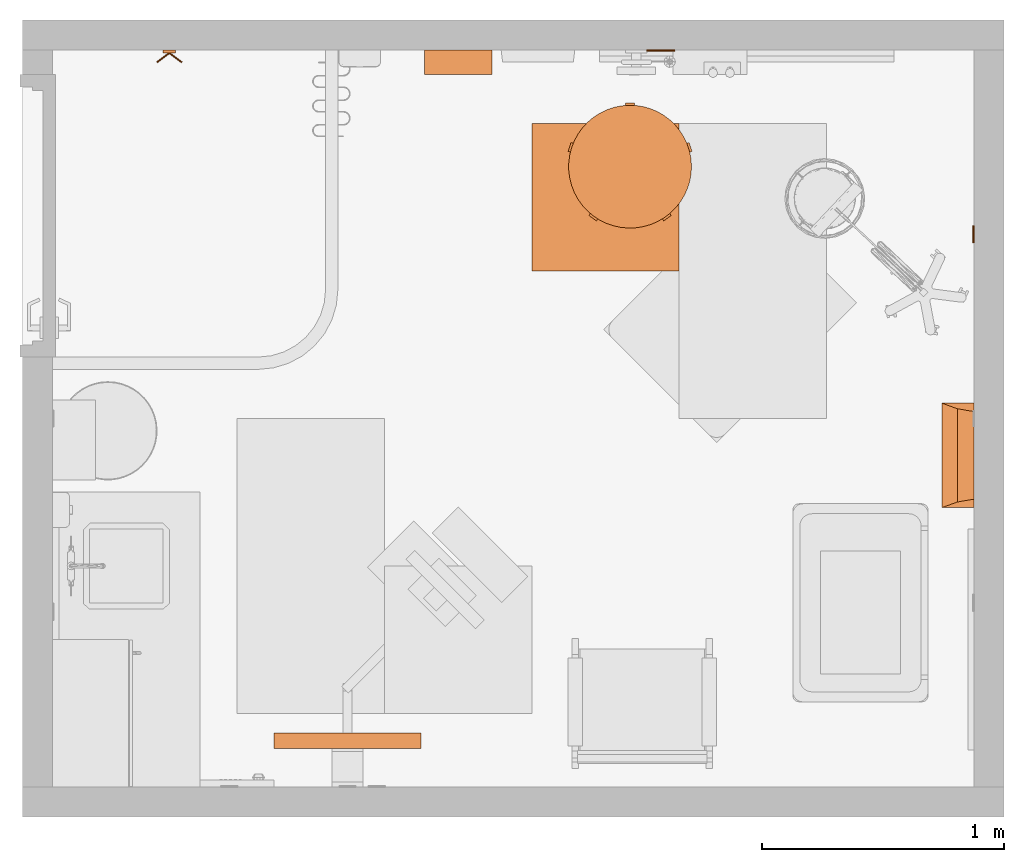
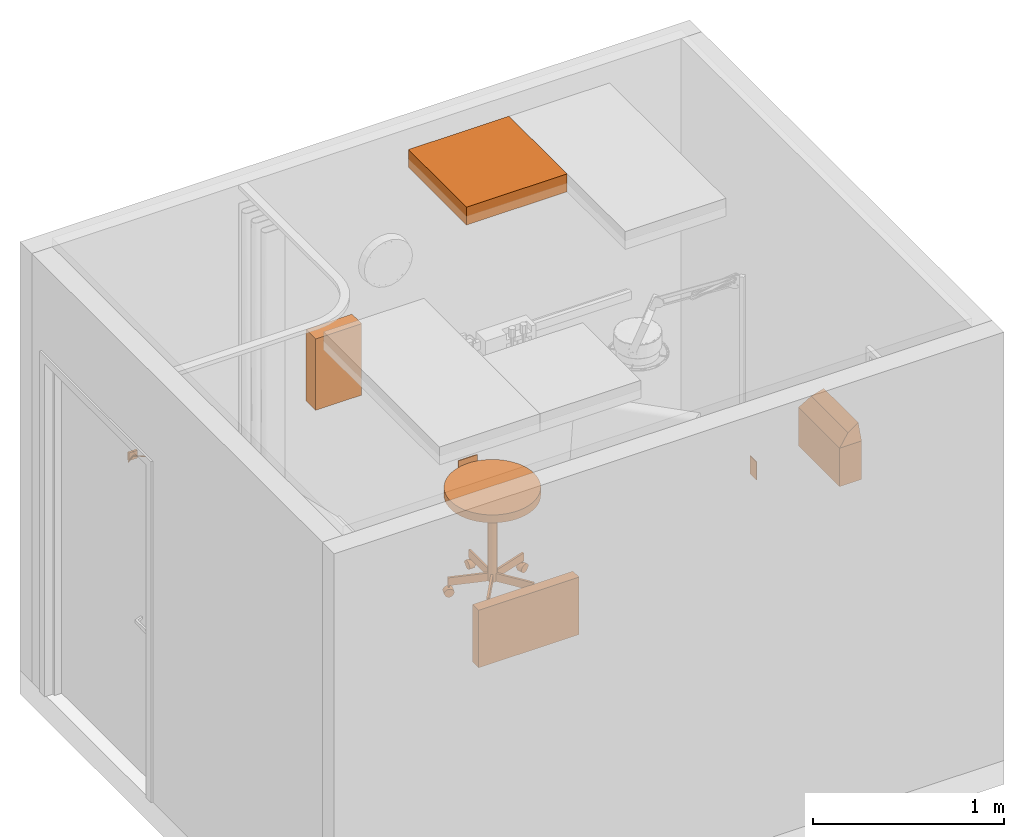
# One storey, part 6 of 10: 8 proxies.
"""IFC2X3 building model written with IfcOpenShell, lengths in feet."""

from ifc_helpers import new_model, entity, si_unit, converted_unit, derived_unit, direction, frame, frame_2d, origin, origin_2d_with_axis, place, context, subcontext, project, spatial, polyline, circle_curve, parameter, trimmed, segment, composite_curve, rectangle, circle, outline, extrude, faceted_brep, source, transform, mapped, type_object, type_shapes, element, save


model = new_model("IFC2X3")

# Units and contexts
model_context = context("Model", 3, precision=0.0001, world=origin(), true_north=direction((6.12303176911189e-17, 1.0)))
body_context = subcontext(model_context, "Body", "Model", "MODEL_VIEW")
ifc_project = project(units=[converted_unit("LENGTHUNIT", "FOOT", entity("IfcRatioMeasure", 0.3048), si_unit("LENGTHUNIT", "METRE"), dimensions=[1, 0, 0, 0, 0, 0, 0]), converted_unit("AREAUNIT", "SQUARE FOOT", entity("IfcRatioMeasure", 0.09290304), si_unit("AREAUNIT", "SQUARE_METRE"), dimensions=[2, 0, 0, 0, 0, 0, 0]), converted_unit("VOLUMEUNIT", "CUBIC FOOT", entity("IfcRatioMeasure", 0.028316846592), si_unit("VOLUMEUNIT", "CUBIC_METRE"), dimensions=[3, 0, 0, 0, 0, 0, 0]), converted_unit("PLANEANGLEUNIT", "DEGREE", entity("IfcRatioMeasure", 0.0174532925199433), si_unit("PLANEANGLEUNIT", "RADIAN"), dimensions=[0, 0, 0, 0, 0, 0, 0]), si_unit("MASSUNIT", "GRAM", prefix="KILO"), derived_unit("MASSDENSITYUNIT", [(si_unit("MASSUNIT", "GRAM", prefix="KILO"), 1), (si_unit("LENGTHUNIT", "METRE"), -3)]), si_unit("TIMEUNIT", "SECOND"), si_unit("FREQUENCYUNIT", "HERTZ"), si_unit("THERMODYNAMICTEMPERATUREUNIT", "DEGREE_CELSIUS"), derived_unit("THERMALTRANSMITTANCEUNIT", [(si_unit("MASSUNIT", "GRAM", prefix="KILO"), 1), (si_unit("THERMODYNAMICTEMPERATUREUNIT", "KELVIN"), -1), (si_unit("TIMEUNIT", "SECOND"), -3)]), derived_unit("VOLUMETRICFLOWRATEUNIT", [(si_unit("LENGTHUNIT", "METRE"), 3), (si_unit("TIMEUNIT", "SECOND"), -1)]), si_unit("ELECTRICCURRENTUNIT", "AMPERE"), si_unit("ELECTRICVOLTAGEUNIT", "VOLT"), si_unit("POWERUNIT", "WATT"), si_unit("FORCEUNIT", "NEWTON"), si_unit("ILLUMINANCEUNIT", "LUX"), si_unit("LUMINOUSFLUXUNIT", "LUMEN"), si_unit("LUMINOUSINTENSITYUNIT", "CANDELA"), derived_unit("USERDEFINED", [(si_unit("MASSUNIT", "GRAM", prefix="KILO"), -1), (si_unit("LENGTHUNIT", "METRE"), -2), (si_unit("TIMEUNIT", "SECOND"), 3), (si_unit("LUMINOUSFLUXUNIT", "LUMEN"), 1)]), derived_unit("LINEARVELOCITYUNIT", [(si_unit("LENGTHUNIT", "METRE"), 1), (si_unit("TIMEUNIT", "SECOND"), -1)]), si_unit("PRESSUREUNIT", "PASCAL"), derived_unit("USERDEFINED", [(si_unit("LENGTHUNIT", "METRE"), -2), (si_unit("MASSUNIT", "GRAM", prefix="KILO"), 1), (si_unit("TIMEUNIT", "SECOND"), -2)])], contexts=[model_context])

# Site, building, storey, space
site_placement = place(None, origin())
site = spatial("IfcSite", under=ifc_project, at=site_placement, Name="Default", CompositionType="ELEMENT")
building_placement = place(site_placement, origin())
building = spatial("IfcBuilding", under=site, at=building_placement, Name="OUTPATIENT / PACT CLINIC (Ch. 265)", CompositionType="ELEMENT")
storey_placement = place(building_placement, origin())
storey = spatial("IfcBuildingStorey", under=building, at=storey_placement, Name="DATUM", CompositionType="ELEMENT", Elevation=0.0)
space_placement = place(storey_placement, origin())
space = spatial("IfcSpace", under=storey, at=space_placement, Name="WRTM3", CompositionType="ELEMENT", InteriorOrExteriorSpace="INTERNAL")

# Proxies
building_element_proxy_type_1 = type_object("IfcBuildingElementProxyType", Name="24\" x 24\"", PredefinedType="NOTDEFINED")
shared_shape_1 = source(origin(), body_context, "Body", "SweptSolid", [
    extrude(rectangle(XDim=2.0, YDim=2.0, at=origin_2d_with_axis()), frame((0.0, 0.0, 8.0)), (0.0, 0.0, 1.0), 0.375),
])
type_shapes(building_element_proxy_type_1, [shared_shape_1])
proxy_1_placement = place(space_placement, frame((243.766410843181, -851.855546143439, 1.0)))
element("IfcBuildingElementProxy", 1, at=proxy_1_placement, inside=space, type_object=building_element_proxy_type_1, Name="Return Register:24\" x 24\"", ObjectType="24\" x 24\"", context=body_context, shape_type="MappedRepresentation", body=[
    mapped(shared_shape_1, transform((0.0, 0.0, 0.0), scale=1.0)),
])
building_element_proxy_type_2 = type_object("IfcBuildingElementProxyType", Name="A5145 - Hook, Garment, Double", PredefinedType="NOTDEFINED")
shared_shape_2 = source(origin(), body_context, "Body", "SweptSolid", [
    extrude(circle(Radius=0.0105952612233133, at=frame_2d((-1.64551454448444e-31, -4.16333634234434e-17), x_axis=(1.0, 0.0))), frame((-0.169086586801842, -0.168481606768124, 0.0833333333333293), z_axis=(0.799999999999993, 0.60000000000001, 0.0), x_axis=(0.60000000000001, -0.799999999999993, 0.0)), (0.0, 0.0, 1.0), 0.211358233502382),
    extrude(circle(Radius=0.0105952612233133, at=frame_2d((5.2041704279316e-19, 2.77555756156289e-17), x_axis=(1.0, 0.0))), frame((0.0, -0.0416666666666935, 0.083333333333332), z_axis=(0.799999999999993, -0.60000000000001, 0.0), x_axis=(-0.60000000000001, -0.799999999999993, 0.0)), (0.0, 0.0, 1.0), 0.211358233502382),
    extrude(rectangle(XDim=0.0416666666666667, YDim=0.166666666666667, at=origin_2d_with_axis()), frame((0.0, -0.0208333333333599, 0.0), z_axis=(0.0, 0.0, 1.0), x_axis=(0.0, 1.0, 0.0)), (0.0, 0.0, 1.0), 0.166666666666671),
])
type_shapes(building_element_proxy_type_2, [shared_shape_2])
proxy_2_placement = place(space_placement, frame((237.849744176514, -849.855546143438, 4.0)))
element("IfcBuildingElementProxy", 2, at=proxy_2_placement, inside=space, type_object=building_element_proxy_type_2, Name="A5145 - Hook, Garment, Double:A5145 - Hook, Garment, Double", ObjectType="A5145 - Hook, Garment, Double", context=body_context, shape_type="MappedRepresentation", body=[
    mapped(shared_shape_2, transform((0.0, 0.0, 0.0), scale=1.0)),
])
building_element_proxy_type_3 = type_object("IfcBuildingElementProxyType", Name="F0340 - Stool, Self Adjusting", PredefinedType="NOTDEFINED")
shared_shape_3 = source(origin(), body_context, "Body", "SweptSolid", [
    extrude(circle(Radius=0.084518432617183, at=frame_2d((0.0, -1.38777878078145e-16), x_axis=(1.0, 0.0))), frame((0.717011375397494, 0.287734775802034, 0.0845184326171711), z_axis=(0.309016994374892, -0.951056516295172, 0.0), x_axis=(-0.951056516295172, -0.309016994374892, 0.0)), (0.0, 0.0, 1.0), 0.104166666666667),
    extrude(outline(composite_curve([segment(polyline([(-0.0925649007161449, 0.0), (0.0925649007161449, 0.0)]), True, "CONTINUOUS"), segment(trimmed(circle_curve(origin_2d_with_axis(), 0.0925649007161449), [parameter(2.03555499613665e-13)], [parameter(180.0)], True, "PARAMETER"), True, "CONTINUOUS")], self_intersect=False)), frame((0.752419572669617, 0.178759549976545, 0.0845184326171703), z_axis=(-0.309016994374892, 0.951056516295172, 0.0), x_axis=(-0.951056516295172, -0.309016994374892, 0.0)), (0.0, 0.0, 1.0), 0.125),
    extrude(circle(Radius=0.0115130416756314, at=frame_2d((7.9106571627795e-18, 1.14165428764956e-16), x_axis=(1.0, 0.0))), frame((0.73310678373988, 0.238198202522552, 0.177083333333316), z_axis=(0.0, 0.0, 1.0), x_axis=(0.309016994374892, -0.951056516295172, 0.0)), (0.0, 0.0, 1.0), 0.0442708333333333),
    extrude(rectangle(XDim=0.0416641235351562, YDim=0.7059128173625, at=frame_2d((1.38777878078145e-17, 0.0), x_axis=(1.0, 0.0))), frame((0.412570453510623, 0.134049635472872, 0.221354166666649), z_axis=(0.0, 0.0, 1.0), x_axis=(-0.309016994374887, 0.951056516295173, 0.0)), (0.0, 0.0, 1.0), 0.166666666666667),
    extrude(circle(Radius=0.084518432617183, at=frame_2d((0.0, -3.7470027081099e-16), x_axis=(1.0, 0.0))), frame((0.410948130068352, -0.654231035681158, 0.0845184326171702), z_axis=(0.809016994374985, 0.587785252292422, 0.0), x_axis=(-0.587785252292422, 0.809016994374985, 0.0)), (0.0, 0.0, 1.0), 0.104166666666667),
    extrude(outline(composite_curve([segment(polyline([(-0.0925649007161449, 0.0), (0.0925649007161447, 0.0)]), True, "CONTINUOUS"), segment(trimmed(circle_curve(origin_2d_with_axis(), 0.0925649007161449), [parameter(2.03555499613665e-13)], [parameter(180.0)], True, "PARAMETER"), True, "CONTINUOUS")], self_intersect=False)), frame((0.402520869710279, -0.660353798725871, 0.0845184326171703), z_axis=(0.809016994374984, 0.587785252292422, 0.0), x_axis=(-0.587785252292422, 0.809016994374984, 0.0)), (0.0, 0.0, 1.0), 0.125),
    extrude(circle(Radius=0.0115130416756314, at=origin_2d_with_axis()), frame((0.453082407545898, -0.623618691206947, 0.177083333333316), z_axis=(0.0, 0.0, 1.0), x_axis=(-0.809016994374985, -0.587785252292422, 0.0)), (0.0, 0.0, 1.0), 0.0442708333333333),
    extrude(rectangle(XDim=0.0416641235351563, YDim=0.705912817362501, at=frame_2d((0.0, -1.38777878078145e-16), x_axis=(1.0, 0.0))), frame((0.254980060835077, -0.350954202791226, 0.221354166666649), z_axis=(0.0, 0.0, 1.0), x_axis=(0.809016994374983, 0.587785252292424, 0.0)), (0.0, 0.0, 1.0), 0.166666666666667),
    extrude(circle(Radius=0.084518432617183, at=frame_2d((-3.2628636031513e-17, -1.38777878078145e-16), x_axis=(1.0, 0.0))), frame((-0.410948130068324, -0.654231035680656, 0.0845184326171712), z_axis=(-0.809016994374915, 0.587785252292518, 0.0), x_axis=(0.587785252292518, 0.809016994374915, 0.0)), (0.0, 0.0, 1.0), 0.104166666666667),
    extrude(outline(composite_curve([segment(trimmed(circle_curve(origin_2d_with_axis(), 0.0925649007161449), [parameter(180.0)], [parameter(360.0)], True, "PARAMETER"), True, "CONTINUOUS"), segment(polyline([(0.0925649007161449, 0.0), (-0.0925649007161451, 0.0)]), True, "CONTINUOUS")], self_intersect=False)), frame((-0.402520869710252, -0.66035379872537, 0.0845184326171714), z_axis=(-0.809016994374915, 0.587785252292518, 0.0), x_axis=(0.587785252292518, 0.809016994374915, 0.0)), (0.0, 0.0, 1.0), 0.125),
    extrude(circle(Radius=0.0115130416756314, at=frame_2d((-4.49094647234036e-17, -3.2628636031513e-17), x_axis=(1.0, 0.0))), frame((-0.453086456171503, -0.623615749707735, 0.177083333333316), z_axis=(0.0, 0.0, 1.0), x_axis=(-0.809016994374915, 0.587785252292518, 0.0)), (0.0, 0.0, 1.0), 0.0442708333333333),
    extrude(rectangle(XDim=0.0416641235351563, YDim=0.7059128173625, at=frame_2d((-4.16333634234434e-17, 5.55111512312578e-17), x_axis=(1.0, 0.0))), frame((-0.254984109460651, -0.350951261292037, 0.221354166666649), z_axis=(0.0, 0.0, 1.0), x_axis=(0.809016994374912, -0.587785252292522, 0.0)), (0.0, 0.0, 1.0), 0.166666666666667),
    extrude(circle(Radius=0.084518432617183, at=frame_2d((0.0, -1.38777878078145e-16), x_axis=(1.0, 0.0))), frame((-0.749200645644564, 0.188666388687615, 0.0845184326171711), z_axis=(0.309016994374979, 0.951056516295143, 0.0), x_axis=(0.951056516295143, -0.309016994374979, 0.0)), (0.0, 0.0, 1.0), 0.104166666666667),
    extrude(outline(composite_curve([segment(trimmed(circle_curve(origin_2d_with_axis(), 0.0925649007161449), [parameter(180.0)], [parameter(360.0)], True, "PARAMETER"), True, "CONTINUOUS"), segment(polyline([(0.0925649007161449, 0.0), (-0.0925649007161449, 0.0)]), True, "CONTINUOUS")], self_intersect=False)), frame((-0.752419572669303, 0.178759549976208, 0.0845184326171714), z_axis=(0.309016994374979, 0.951056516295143, 0.0), x_axis=(0.951056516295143, -0.309016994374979, 0.0)), (0.0, 0.0, 1.0), 0.125),
    extrude(circle(Radius=0.0115130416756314, at=frame_2d((7.91065716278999e-18, -1.14165428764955e-16), x_axis=(1.0, 0.0))), frame((-0.733105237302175, 0.238202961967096, 0.177083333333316), z_axis=(0.0, 0.0, 1.0), x_axis=(0.309016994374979, 0.951056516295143, 0.0)), (0.0, 0.0, 1.0), 0.0442708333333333),
    extrude(rectangle(XDim=0.0416641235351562, YDim=0.7059128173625, at=origin_2d_with_axis()), frame((-0.412568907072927, 0.134054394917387, 0.221354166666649), z_axis=(0.0, 0.0, 1.0), x_axis=(-0.309016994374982, -0.951056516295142, 0.0)), (0.0, 0.0, 1.0), 0.166666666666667),
    extrude(circle(Radius=0.084518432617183, at=frame_2d((-1.76415182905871e-31, -1.38777878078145e-16), x_axis=(1.0, 0.0))), frame((-0.0520833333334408, 0.770833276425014, 0.0845184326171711), z_axis=(1.0, 0.0, 0.0), x_axis=(0.0, -1.0, 0.0)), (0.0, 0.0, 1.0), 0.104166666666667),
    extrude(outline(composite_curve([segment(trimmed(circle_curve(origin_2d_with_axis(), 0.0925649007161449), [parameter(180.0)], [parameter(360.0)], True, "PARAMETER"), True, "CONTINUOUS"), segment(polyline([(0.0925649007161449, 0.0), (-0.0925649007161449, 0.0)]), True, "CONTINUOUS")], self_intersect=False)), frame((-0.0625000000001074, 0.770833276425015, 0.0845184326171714), z_axis=(1.0, 0.0, 0.0), x_axis=(0.0, -1.0, 0.0)), (0.0, 0.0, 1.0), 0.125),
    extrude(circle(Radius=0.0115130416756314, at=frame_2d((7.04731412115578e-19, 1.79171670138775e-32), x_axis=(1.0, 0.0))), frame((2.50218814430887e-06, 0.770833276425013, 0.177083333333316)), (0.0, 0.0, 1.0), 0.0442708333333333),
    extrude(rectangle(XDim=0.0416641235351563, YDim=0.7059128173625, at=frame_2d((3.46944695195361e-18, 5.55111512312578e-17), x_axis=(1.0, 0.0))), frame((2.50218813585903e-06, 0.433801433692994, 0.221354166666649), z_axis=(0.0, 0.0, 1.0), x_axis=(-1.0, 0.0, 0.0)), (0.0, 0.0, 1.0), 0.166666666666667),
    extrude(circle(Radius=0.0834863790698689, at=frame_2d((2.89333175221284e-18, -1.34875966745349e-16), x_axis=(1.0, 0.0))), frame((0.0, 0.0, 0.221354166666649)), (0.0, 0.0, 1.0), 1.77864583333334),
    extrude(circle(Radius=0.833333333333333, at=frame_2d((2.28760446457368e-17, -1.34628714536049e-15), x_axis=(1.0, 0.0))), frame((0.0, 0.0, 2.0)), (0.0, 0.0, 1.0), 0.166666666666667),
])
type_shapes(building_element_proxy_type_3, [shared_shape_3])
proxy_3_placement = place(space_placement, frame((244.099744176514, -851.438879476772, 0.0)))
element("IfcBuildingElementProxy", 3, at=proxy_3_placement, inside=space, type_object=building_element_proxy_type_3, Name="F0340 - Stool, Self Adjusting:F0340 - Stool, Self Adjusting", ObjectType="F0340 - Stool, Self Adjusting", context=body_context, shape_type="MappedRepresentation", body=[
    mapped(shared_shape_3, transform((0.0, 0.0, 0.0), scale=1.0)),
])
building_element_proxy_type_4 = type_object("IfcBuildingElementProxyType", Name="A5107 - Dispenser, Glove, Surgical-Examination, Wall Mntd 10\"x 4\"", PredefinedType="NOTDEFINED")
shared_shape_4 = source(origin(), body_context, "Body", "SweptSolid", [
    extrude(rectangle(XDim=0.333333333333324, YDim=0.916666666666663, at=frame_2d((-1.38777878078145e-17, 0.0), x_axis=(1.0, 0.0))), frame((0.0, 0.166666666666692, 0.0), z_axis=(0.0, 0.0, 1.0), x_axis=(0.0, 1.0, 0.0)), (0.0, 0.0, 1.0), 1.5),
])
type_shapes(building_element_proxy_type_4, [shared_shape_4])
proxy_4_placement = place(space_placement, frame((241.766410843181, -849.855546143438, 4.0), z_axis=(0.0, 0.0, 1.0), x_axis=(-1.0, 0.0, 0.0)))
element("IfcBuildingElementProxy", 4, at=proxy_4_placement, inside=space, type_object=building_element_proxy_type_4, Name="A5107 - Dispenser, Glove, Surgical-Examination, Wall Mntd:A5107 - Dispenser, Glove, Surgical-Examination, Wall Mntd 10\"x 4\"", ObjectType="A5107 - Dispenser, Glove, Surgical-Examination, Wall Mntd 10\"x 4\"", context=body_context, shape_type="MappedRepresentation", body=[
    mapped(shared_shape_4, transform((0.0, 0.0, 0.0), scale=1.0)),
])
building_element_proxy_type_5 = type_object("IfcBuildingElementProxyType", Name="A5108 - Waste Disposal Unit, Sharps 17\"x 13\"", PredefinedType="NOTDEFINED")
shared_shape_5 = source(origin(), body_context, "Body", "Brep", [
    faceted_brep([(0.70833333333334, 0.0, 0.0), (-0.708333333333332, 0.0, 0.0), (-0.708333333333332, 0.437500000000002, 0.0), (0.70833333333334, 0.437500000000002, 0.0), (0.70833333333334, 0.437500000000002, 0.810989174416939), (0.70833333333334, 0.0025667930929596, 0.810989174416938), (0.70833333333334, 0.0, 0.808422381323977), (-0.708333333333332, 0.437500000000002, 0.810989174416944), (-0.594042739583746, 0.437500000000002, 1.125), (0.594042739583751, 0.437500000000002, 1.125), (-0.708333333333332, 0.0, 0.808422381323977), (-0.708333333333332, 0.00256679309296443, 0.810989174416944), (0.632497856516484, 0.210923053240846, 1.01934543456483), (-0.632497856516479, 0.210923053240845, 1.01934543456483)], [[[0, 1, 2, 3]], [[0, 3, 4, 5, 6]], [[3, 2, 7, 8, 9, 4]], [[2, 1, 10, 11, 7]], [[1, 0, 6, 10]], [[10, 6, 5, 12, 13, 11]], [[12, 9, 8, 13]], [[5, 4, 9, 12]], [[8, 7, 11, 13]]]),
])
type_shapes(building_element_proxy_type_5, [shared_shape_5])
proxy_5_placement = place(storey_placement, frame((248.328910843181, -855.355546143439, 3.5), z_axis=(0.0, 0.0, 1.0), x_axis=(0.0, -1.0, 0.0)))
element("IfcBuildingElementProxy", 5, at=proxy_5_placement, inside=storey, type_object=building_element_proxy_type_5, Name="A5108 - Waste Disposal Unit, Sharps:A5108 - Waste Disposal Unit, Sharps 17\"x 13\"", ObjectType="A5108 - Waste Disposal Unit, Sharps 17\"x 13\"", context=body_context, shape_type="MappedRepresentation", body=[
    mapped(shared_shape_5, transform((0.0, 0.0, 0.0), scale=1.0)),
])
building_element_proxy_type_6 = type_object("IfcBuildingElementProxyType", Name="M0506 - Television, Flat Screen", PredefinedType="NOTDEFINED")
shared_shape_6 = source(origin(), body_context, "Body", "Brep", [
    faceted_brep([(2.0, 0.0, 1.20833333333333), (0.0, 0.0, 1.20833333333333), (0.0, 0.0, 0.0), (2.0, 0.0, 0.0), (0.0833333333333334, 0.0, 1.12696776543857), (1.91092359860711, 0.0, 1.12696776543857), (1.91092359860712, 0.0, 0.0853010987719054), (0.0833333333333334, 0.0, 0.0853010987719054), (2.0, 0.208333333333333, 1.20833333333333), (2.0, 0.208333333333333, 0.0), (0.0, 0.208333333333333, 0.0), (0.0, 0.208333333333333, 1.20833333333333), (1.91092359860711, 0.0295645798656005, 1.12696776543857), (0.0833333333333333, 0.0295645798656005, 1.12696776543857), (0.0833333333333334, 0.0295645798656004, 0.0853010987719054), (1.91092359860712, 0.0295645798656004, 0.0853010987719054)], [[[0, 1, 2, 3], [4, 5, 6, 7]], [[8, 9, 10, 11]], [[1, 0, 8, 11]], [[2, 1, 11, 10]], [[3, 2, 10, 9]], [[0, 3, 9, 8]], [[12, 13, 14, 15]], [[13, 12, 5, 4]], [[14, 13, 4, 7]], [[15, 14, 7, 6]], [[12, 15, 6, 5]]]),
])
type_shapes(building_element_proxy_type_6, [shared_shape_6])
proxy_6_placement = place(space_placement, frame((241.266430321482, -859.122212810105, 4.84709344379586), z_axis=(0.0, 0.0, 1.0), x_axis=(-1.0, 0.0, 0.0)))
element("IfcBuildingElementProxy", 6, at=proxy_6_placement, inside=space, type_object=building_element_proxy_type_6, Name="M0506 - Television, Flat Screen:M0506 - Television, Flat Screen", ObjectType="M0506 - Television, Flat Screen", context=body_context, shape_type="MappedRepresentation", body=[
    mapped(shared_shape_6, transform((0.0, 0.0, 0.0), scale=1.0)),
])
building_element_proxy_type_7 = type_object("IfcBuildingElementProxyType", Name="Duplex", PredefinedType="NOTDEFINED")
shared_shape_7 = source(origin(), body_context, "Body", "SweptSolid", [
    extrude(rectangle(XDim=0.0156249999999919, YDim=0.229166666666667, at=origin_2d_with_axis()), frame((0.0, 0.210937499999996, 0.0), z_axis=(0.0, 0.0, 1.0), x_axis=(0.0, 1.0, 0.0)), (0.0, 0.0, 1.0), 0.37500000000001),
])
type_shapes(building_element_proxy_type_7, [shared_shape_7])
proxy_7_placement = place(space_placement, frame((248.969535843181, -852.355546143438, 1.31250000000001), z_axis=(0.0, 0.0, 1.0), x_axis=(0.0, 1.0, 0.0)))
element("IfcBuildingElementProxy", 7, at=proxy_7_placement, inside=space, type_object=building_element_proxy_type_7, Name="Outlet, Duplex, Wall:Duplex", ObjectType="Duplex", context=body_context, shape_type="MappedRepresentation", body=[
    mapped(shared_shape_7, transform((0.0, 0.0, 0.0), scale=1.0)),
])
building_element_proxy_type_8 = type_object("IfcBuildingElementProxyType", Name="Quadraplex", PredefinedType="NOTDEFINED")
shared_shape_8 = source(origin(), body_context, "Body", "SweptSolid", [
    extrude(rectangle(XDim=0.0156249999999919, YDim=0.375, at=frame_2d((0.0, -5.55111512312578e-17), x_axis=(1.0, 0.0))), frame((0.0, 0.210937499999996, 0.0), z_axis=(0.0, 0.0, 1.0), x_axis=(0.0, 1.0, 0.0)), (0.0, 0.0, 1.0), 0.375000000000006),
])
type_shapes(building_element_proxy_type_8, [shared_shape_8])
proxy_8_placement = place(space_placement, frame((244.516386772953, -849.652421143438, 1.3125), z_axis=(0.0, 0.0, 1.0), x_axis=(-1.0, 0.0, 0.0)))
element("IfcBuildingElementProxy", 8, at=proxy_8_placement, inside=space, type_object=building_element_proxy_type_8, Name="Outlet, Quadraplex, Wall:Quadraplex", ObjectType="Quadraplex", context=body_context, shape_type="MappedRepresentation", body=[
    mapped(shared_shape_8, transform((0.0, 0.0, 0.0), scale=1.0)),
])

save(model, "model.ifc")
